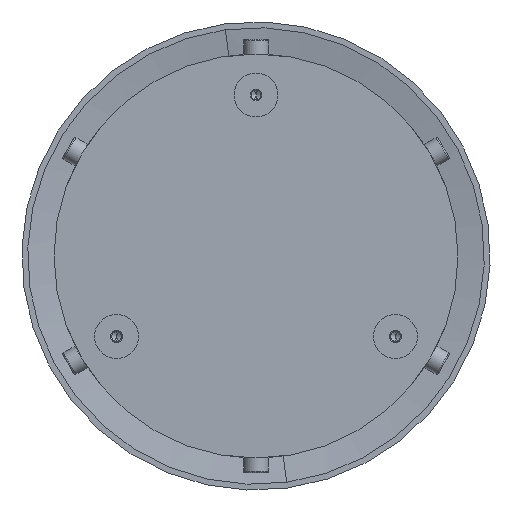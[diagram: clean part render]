
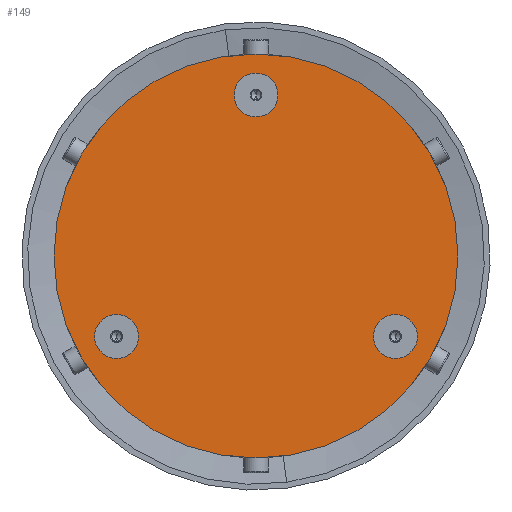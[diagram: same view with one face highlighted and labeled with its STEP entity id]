
A CAD part, front view. The second image highlights one B-rep face of the part: STEP entity #149.
In plain terms, the highlighted planar face has unit normal (0, -1, 0).
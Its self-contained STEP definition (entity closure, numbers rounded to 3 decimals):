
#8 = EDGE_CURVE ( 'NONE', #2724, #1846, #6510, .T. ) ;
#88 = DIRECTION ( 'NONE',  ( 0., 0., 1. ) ) ;
#147 = CARTESIAN_POINT ( 'NONE',  ( -47.631, 0., -35. ) ) ;
#149 = ADVANCED_FACE ( 'NONE', ( #2003, #915, #5428, #1094 ), #4805, .F. ) ;
#192 = VERTEX_POINT ( 'NONE', #3797 ) ;
#268 = DIRECTION ( 'NONE',  ( 0., -1., 0. ) ) ;
#304 = CARTESIAN_POINT ( 'NONE',  ( 47.631, 0., -35. ) ) ;
#390 = DIRECTION ( 'NONE',  ( 0., -1., 0. ) ) ;
#414 = EDGE_CURVE ( 'NONE', #192, #4668, #1416, .T. ) ;
#560 = EDGE_CURVE ( 'NONE', #1514, #5372, #578, .T. ) ;
#578 = CIRCLE ( 'NONE', #1070, 7.5 ) ;
#771 = ORIENTED_EDGE ( 'NONE', *, *, #3097, .F. ) ;
#915 = FACE_BOUND ( 'NONE', #1621, .T. ) ;
#1070 = AXIS2_PLACEMENT_3D ( 'NONE', #4646, #390, #1490 ) ;
#1094 = FACE_OUTER_BOUND ( 'NONE', #4677, .T. ) ;
#1129 = CIRCLE ( 'NONE', #1387, 7.5 ) ;
#1187 = EDGE_CURVE ( 'NONE', #6904, #4513, #6161, .T. ) ;
#1247 = AXIS2_PLACEMENT_3D ( 'NONE', #5724, #6733, #3589 ) ;
#1286 = ORIENTED_EDGE ( 'NONE', *, *, #414, .F. ) ;
#1387 = AXIS2_PLACEMENT_3D ( 'NONE', #4034, #268, #3394 ) ;
#1416 = CIRCLE ( 'NONE', #4033, 7.5 ) ;
#1454 = AXIS2_PLACEMENT_3D ( 'NONE', #3823, #2805, #6536 ) ;
#1459 = CIRCLE ( 'NONE', #6789, 7.5 ) ;
#1490 = DIRECTION ( 'NONE',  ( 0., 0., 1. ) ) ;
#1514 = VERTEX_POINT ( 'NONE', #3875 ) ;
#1560 = EDGE_LOOP ( 'NONE', ( #1989, #771 ) ) ;
#1621 = EDGE_LOOP ( 'NONE', ( #6884, #5745 ) ) ;
#1846 = VERTEX_POINT ( 'NONE', #4724 ) ;
#1921 = DIRECTION ( 'NONE',  ( 0., 0., 1. ) ) ;
#1989 = ORIENTED_EDGE ( 'NONE', *, *, #560, .F. ) ;
#2003 = FACE_BOUND ( 'NONE', #6359, .T. ) ;
#2089 = DIRECTION ( 'NONE',  ( 0., -1., 0. ) ) ;
#2091 = ORIENTED_EDGE ( 'NONE', *, *, #3221, .F. ) ;
#2136 = DIRECTION ( 'NONE',  ( 0., 0., 1. ) ) ;
#2149 = CARTESIAN_POINT ( 'NONE',  ( -47.631, 0., -27.5 ) ) ;
#2230 = CARTESIAN_POINT ( 'NONE',  ( 0., 0., -69. ) ) ;
#2305 = CIRCLE ( 'NONE', #3498, 69. ) ;
#2367 = AXIS2_PLACEMENT_3D ( 'NONE', #3190, #2089, #2136 ) ;
#2469 = CARTESIAN_POINT ( 'NONE',  ( -47.631, 0., -20. ) ) ;
#2724 = VERTEX_POINT ( 'NONE', #2230 ) ;
#2805 = DIRECTION ( 'NONE',  ( 0., 1., 0. ) ) ;
#2809 = AXIS2_PLACEMENT_3D ( 'NONE', #3104, #4146, #5284 ) ;
#2911 = EDGE_CURVE ( 'NONE', #1846, #2724, #2305, .T. ) ;
#2991 = CARTESIAN_POINT ( 'NONE',  ( 47.631, 0., -27.5 ) ) ;
#3097 = EDGE_CURVE ( 'NONE', #5372, #1514, #1129, .T. ) ;
#3104 = CARTESIAN_POINT ( 'NONE',  ( -47.631, 0., -27.5 ) ) ;
#3190 = CARTESIAN_POINT ( 'NONE',  ( 47.631, 0., -27.5 ) ) ;
#3221 = EDGE_CURVE ( 'NONE', #4668, #192, #5879, .T. ) ;
#3394 = DIRECTION ( 'NONE',  ( 0., 0., 1. ) ) ;
#3494 = ORIENTED_EDGE ( 'NONE', *, *, #8, .F. ) ;
#3498 = AXIS2_PLACEMENT_3D ( 'NONE', #3630, #3680, #4763 ) ;
#3589 = DIRECTION ( 'NONE',  ( 0., 0., 1. ) ) ;
#3630 = CARTESIAN_POINT ( 'NONE',  ( 0., 0., 0. ) ) ;
#3680 = DIRECTION ( 'NONE',  ( 0., 1., 0. ) ) ;
#3797 = CARTESIAN_POINT ( 'NONE',  ( 47.631, 0., -20. ) ) ;
#3823 = CARTESIAN_POINT ( 'NONE',  ( 0., 0., 0. ) ) ;
#3875 = CARTESIAN_POINT ( 'NONE',  ( 0., 0., 62.5 ) ) ;
#4033 = AXIS2_PLACEMENT_3D ( 'NONE', #2991, #5609, #1921 ) ;
#4034 = CARTESIAN_POINT ( 'NONE',  ( 0., 0., 55. ) ) ;
#4146 = DIRECTION ( 'NONE',  ( 0., -1., 0. ) ) ;
#4513 = VERTEX_POINT ( 'NONE', #147 ) ;
#4646 = CARTESIAN_POINT ( 'NONE',  ( 0., 0., 55. ) ) ;
#4668 = VERTEX_POINT ( 'NONE', #304 ) ;
#4677 = EDGE_LOOP ( 'NONE', ( #3494, #6184 ) ) ;
#4724 = CARTESIAN_POINT ( 'NONE',  ( 0., 0., 69. ) ) ;
#4763 = DIRECTION ( 'NONE',  ( 0., 0., 1. ) ) ;
#4805 = PLANE ( 'NONE',  #1454 ) ;
#5284 = DIRECTION ( 'NONE',  ( 0., 0., 1. ) ) ;
#5372 = VERTEX_POINT ( 'NONE', #6329 ) ;
#5388 = DIRECTION ( 'NONE',  ( 0., -1., 0. ) ) ;
#5428 = FACE_BOUND ( 'NONE', #1560, .T. ) ;
#5609 = DIRECTION ( 'NONE',  ( 0., -1., 0. ) ) ;
#5724 = CARTESIAN_POINT ( 'NONE',  ( 0., 0., 0. ) ) ;
#5745 = ORIENTED_EDGE ( 'NONE', *, *, #5833, .F. ) ;
#5833 = EDGE_CURVE ( 'NONE', #4513, #6904, #1459, .T. ) ;
#5879 = CIRCLE ( 'NONE', #2367, 7.5 ) ;
#6161 = CIRCLE ( 'NONE', #2809, 7.5 ) ;
#6184 = ORIENTED_EDGE ( 'NONE', *, *, #2911, .F. ) ;
#6329 = CARTESIAN_POINT ( 'NONE',  ( 0., 0., 47.5 ) ) ;
#6359 = EDGE_LOOP ( 'NONE', ( #1286, #2091 ) ) ;
#6510 = CIRCLE ( 'NONE', #1247, 69. ) ;
#6536 = DIRECTION ( 'NONE',  ( 0., 0., 1. ) ) ;
#6733 = DIRECTION ( 'NONE',  ( 0., 1., 0. ) ) ;
#6789 = AXIS2_PLACEMENT_3D ( 'NONE', #2149, #5388, #88 ) ;
#6884 = ORIENTED_EDGE ( 'NONE', *, *, #1187, .F. ) ;
#6904 = VERTEX_POINT ( 'NONE', #2469 ) ;
